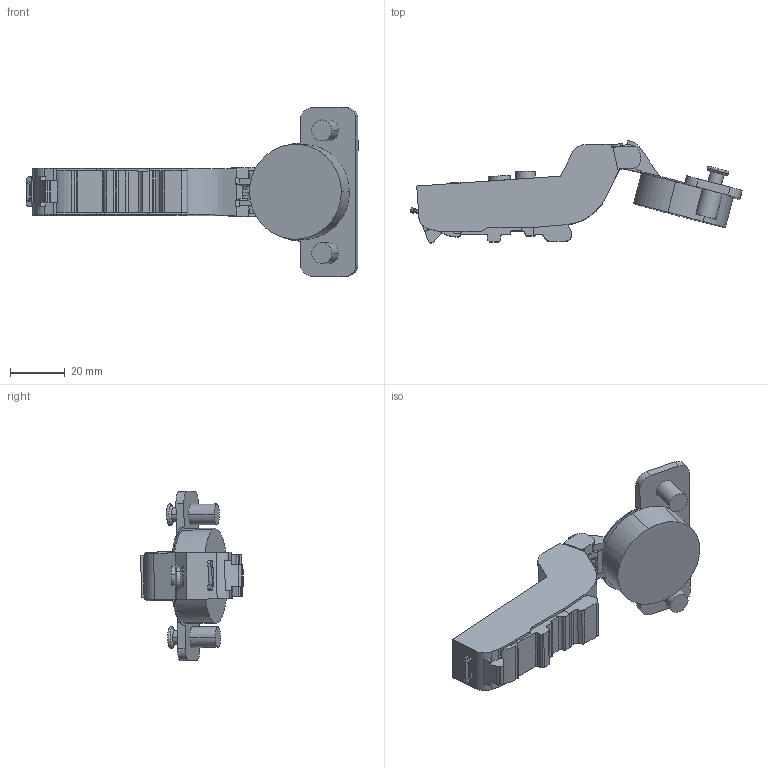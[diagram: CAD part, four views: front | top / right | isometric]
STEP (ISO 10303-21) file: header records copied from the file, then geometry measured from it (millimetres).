
FILE_DESCRIPTION (( 'STEP AP203' ), '1' );
FILE_NAME ('C81C875KFAB DTC 3D OPEN.STEP', '2024-07-24T09:09:26', ( '微软用户' ), ( '微软中国' ), 'SwSTEP 2.0', 'SolidWorks 2021', '' );
FILE_SCHEMA (( 'CONFIG_CONTROL_DESIGN' ));
Length unit declared in the file: millimetre
Products named in the file (1): C81C875KFAB DTC 3D OPEN
Bounding box: 121.69 x 37.5 x 62.05 mm (x, y, z)
Volume: 43950.3 mm3; surface area: 13518.5 mm2
Topology: 1 solids, 2 shells, 417 faces, 1168 edges, 766 vertices
Faces by surface type: plane 215, cylinder 156, torus 20, bspline 16, cone 10
Entity records: 13990 total; most frequent: CARTESIAN_POINT 3303, ORIENTED_EDGE 2336, DIRECTION 2150, EDGE_CURVE 1168, VERTEX_POINT 766, AXIS2_PLACEMENT_3D 748, VECTOR 654, LINE 654
